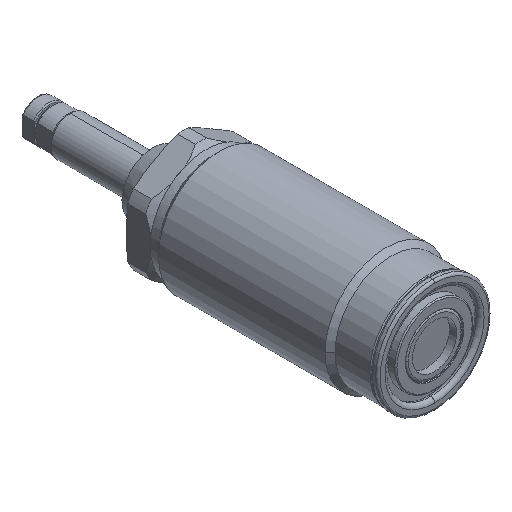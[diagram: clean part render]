
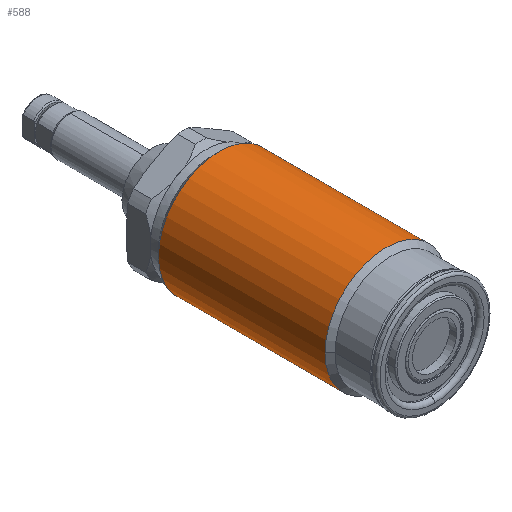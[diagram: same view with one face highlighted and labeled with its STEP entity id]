
A CAD part, isometric view. The second image highlights one B-rep face of the part: STEP entity #588.
In plain terms, the highlighted cylindrical face has radius 11 mm (diameter 22 mm), a full revolution.
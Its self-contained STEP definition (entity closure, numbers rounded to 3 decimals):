
#271=FACE_BOUND('',#895,.T.);
#272=FACE_BOUND('',#896,.T.);
#322=CYLINDRICAL_SURFACE('',#2461,11.);
#391=LINE('',#3997,#470);
#392=LINE('',#4002,#471);
#470=VECTOR('',#3096,1.);
#471=VECTOR('',#3099,1.);
#588=ADVANCED_FACE('',(#271,#272),#322,.T.);
#895=EDGE_LOOP('',(#1367));
#896=EDGE_LOOP('',(#1368,#1369,#1370,#1371,#1372,#1373));
#1367=ORIENTED_EDGE('',*,*,#1963,.T.);
#1368=ORIENTED_EDGE('',*,*,#1964,.F.);
#1369=ORIENTED_EDGE('',*,*,#1964,.T.);
#1370=ORIENTED_EDGE('',*,*,#1965,.F.);
#1371=ORIENTED_EDGE('',*,*,#1966,.F.);
#1372=ORIENTED_EDGE('',*,*,#1966,.T.);
#1373=ORIENTED_EDGE('',*,*,#1967,.F.);
#1700=VERTEX_POINT('',#3996);
#1701=VERTEX_POINT('',#3998);
#1702=VERTEX_POINT('',#3999);
#1703=VERTEX_POINT('',#4001);
#1704=VERTEX_POINT('',#4003);
#1963=EDGE_CURVE('',#1700,#1700,#2173,.T.);
#1964=EDGE_CURVE('',#1701,#1702,#391,.T.);
#1965=EDGE_CURVE('',#1703,#1702,#2174,.T.);
#1966=EDGE_CURVE('',#1704,#1703,#392,.T.);
#1967=EDGE_CURVE('',#1702,#1703,#2175,.T.);
#2173=CIRCLE('',#2458,11.);
#2174=CIRCLE('',#2459,11.);
#2175=CIRCLE('',#2460,11.);
#2458=AXIS2_PLACEMENT_3D('',#3995,#3094,#3095);
#2459=AXIS2_PLACEMENT_3D('',#4000,#3097,#3098);
#2460=AXIS2_PLACEMENT_3D('',#4004,#3100,#3101);
#2461=AXIS2_PLACEMENT_3D('',#4005,#3102,#3103);
#3094=DIRECTION('',(0.,-1.,0.));
#3095=DIRECTION('',(1.,0.,0.));
#3096=DIRECTION('',(0.,-1.,0.));
#3097=DIRECTION('',(0.,-1.,0.));
#3098=DIRECTION('',(-1.,0.,0.));
#3099=DIRECTION('',(0.,-1.,0.));
#3100=DIRECTION('',(0.,-1.,0.));
#3101=DIRECTION('',(-1.,0.,0.));
#3102=DIRECTION('',(0.,-1.,0.));
#3103=DIRECTION('',(-1.,0.,0.));
#3995=CARTESIAN_POINT('',(0.,56.1,0.));
#3996=CARTESIAN_POINT('',(11.,56.1,0.));
#3997=CARTESIAN_POINT('',(11.,0.,0.));
#3998=CARTESIAN_POINT('',(11.,54.766,0.));
#3999=CARTESIAN_POINT('',(11.,26.,0.));
#4000=CARTESIAN_POINT('',(0.,26.,0.));
#4001=CARTESIAN_POINT('',(-11.,26.,0.));
#4002=CARTESIAN_POINT('',(-11.,0.,0.));
#4003=CARTESIAN_POINT('',(-11.,54.766,0.));
#4004=CARTESIAN_POINT('',(0.,26.,0.));
#4005=CARTESIAN_POINT('',(0.,0.,0.));
